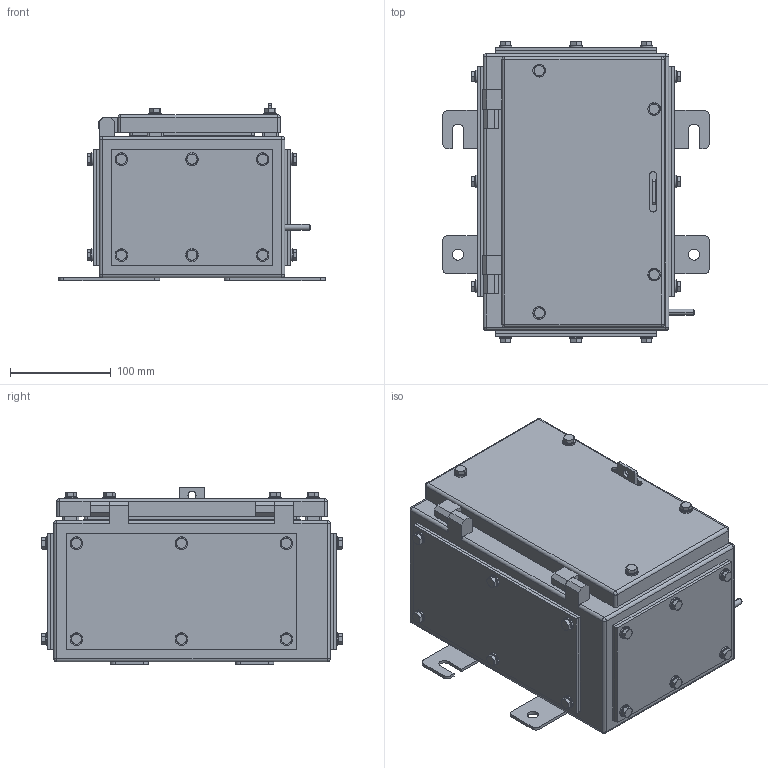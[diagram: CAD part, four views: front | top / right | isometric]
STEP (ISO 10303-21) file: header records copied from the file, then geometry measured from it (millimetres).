
FILE_DESCRIPTION (( 'STEP AP203' ), '1' );
FILE_NAME ('SX0.5_140 4GP.STEP', '2021-05-21T07:07:49', ( '' ), ( '' ), 'SwSTEP 2.0', 'SolidWorks 2020', '' );
FILE_SCHEMA (( 'CONFIG_CONTROL_DESIGN' ));
Length unit declared in the file: millimetre
Products named in the file (10): plain washer form a_bsi_Bright washer BS 4320 - M6 (Form A); SX0.5_140 4GP Body; hex screw gradec_bsi_BS EN 24018 - M6 x 20-WN; SX0.5-140 Base Gasket; SX0.5-140 Base Gland plate; hex screw gradec_bsi_BS EN 24018 - M6 x 16-WN; SX0.5-140 side Gland plate; SX0.5_140 4GP; SX0.5-140 side Gasket; SX0.5 Door
Assembly tree (66 placements, depth 2):
  SX0.5_140 4GP
    SX0.5_140 4GP Body
    SX0.5-140 side Gasket  x2
    SX0.5-140 Base Gasket  x2
    SX0.5-140 Base Gland plate  x2
    SX0.5-140 side Gland plate  x2
    SX0.5 Door
    hex screw gradec_bsi_BS EN 24018 - M6 x 16-WN  x24
    plain washer form a_bsi_Bright washer BS 4320 - M6 (Form A)  x28
    hex screw gradec_bsi_BS EN 24018 - M6 x 20-WN  x4
Bounding box: 264 x 297.95 x 176 mm (x, y, z)
Volume: 954359.7 mm3; surface area: 794754.8 mm2
Topology: 66 solids, 66 shells, 1622 faces, 3570 edges, 2152 vertices
Faces by surface type: plane 746, cylinder 596, cone 232, sphere 40, torus 8
Entity records: 21966 total; most frequent: DIRECTION 3684, CARTESIAN_POINT 3335, ORIENTED_EDGE 3044, EDGE_CURVE 1522, AXIS2_PLACEMENT_3D 1445, VERTEX_POINT 952, EDGE_LOOP 834, VECTOR 794
